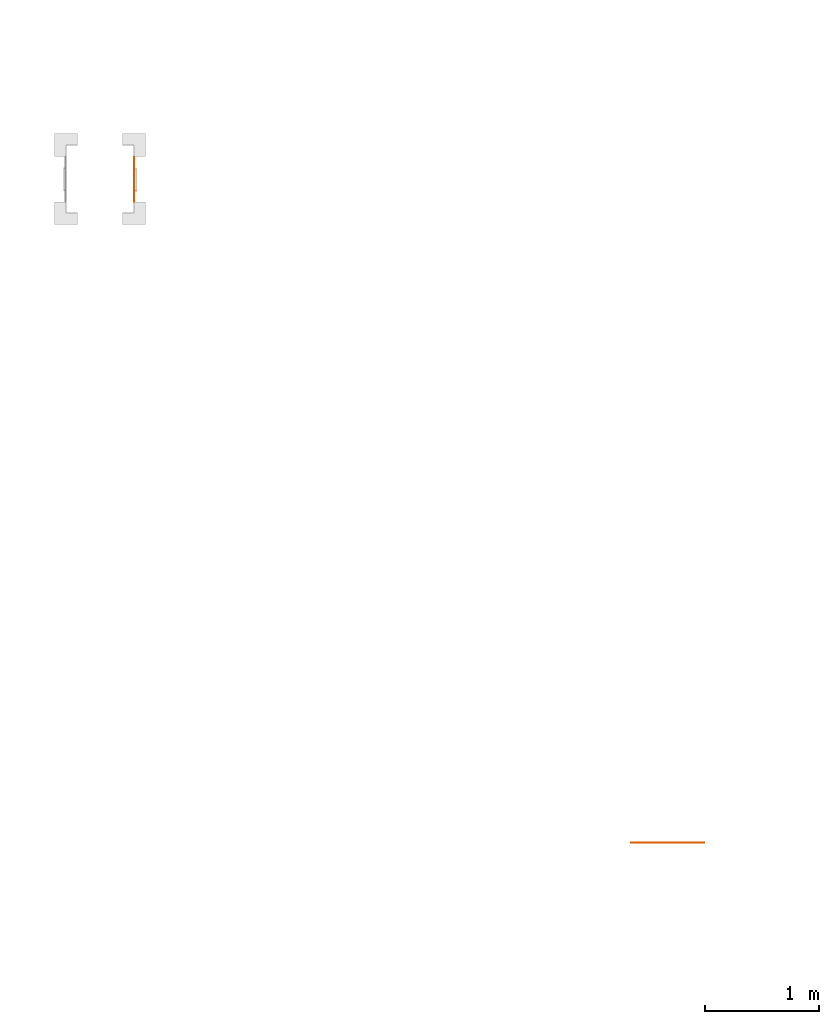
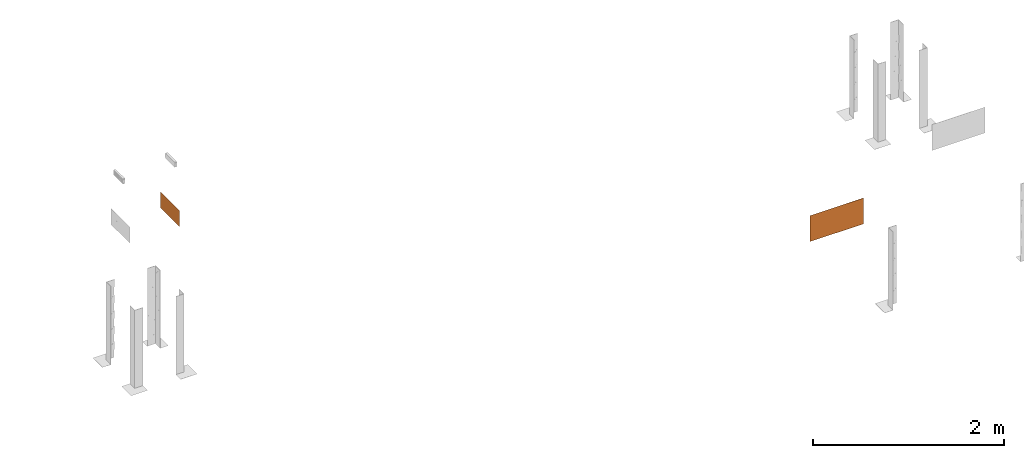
# One storey, part 46 of 119: 2 proxies.
"""IFC2X3 building model written with IfcOpenShell, lengths in metres."""

from ifc_helpers import new_model, entity, si_unit, converted_unit, derived_unit, direction, frame, frame_2d, origin, origin_2d_with_axis, place, context, subcontext, project, spatial, polyline, circle_curve, parameter, trimmed, segment, composite_curve, rectangle, outline, extrude, source, transform, mapped, material, material_list, type_object, type_shapes, element, save


model = new_model("IFC2X3")

# Units and contexts
model_context = context("Model", 3, precision=1e-05, world=origin(), true_north=direction((6.12303176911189e-17, 1.0)))
body_context = subcontext(model_context, "Body", "Model", "MODEL_VIEW")
ifc_project = project(units=[si_unit("LENGTHUNIT", "METRE"), si_unit("AREAUNIT", "SQUARE_METRE"), si_unit("VOLUMEUNIT", "CUBIC_METRE"), converted_unit("PLANEANGLEUNIT", "DEGREE", entity("IfcRatioMeasure", 0.0174532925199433), si_unit("PLANEANGLEUNIT", "RADIAN"), dimensions=[0, 0, 0, 0, 0, 0, 0]), si_unit("MASSUNIT", "GRAM", prefix="KILO"), derived_unit("MASSDENSITYUNIT", [(si_unit("MASSUNIT", "GRAM", prefix="KILO"), 1), (si_unit("LENGTHUNIT", "METRE"), -3)]), derived_unit("MOMENTOFINERTIAUNIT", [(si_unit("LENGTHUNIT", "METRE"), 4)]), si_unit("TIMEUNIT", "SECOND"), si_unit("FREQUENCYUNIT", "HERTZ"), si_unit("THERMODYNAMICTEMPERATUREUNIT", "DEGREE_CELSIUS"), derived_unit("THERMALTRANSMITTANCEUNIT", [(si_unit("MASSUNIT", "GRAM", prefix="KILO"), 1), (si_unit("THERMODYNAMICTEMPERATUREUNIT", "KELVIN"), -1), (si_unit("TIMEUNIT", "SECOND"), -3)]), derived_unit("VOLUMETRICFLOWRATEUNIT", [(si_unit("LENGTHUNIT", "METRE"), 3), (si_unit("TIMEUNIT", "SECOND"), -1)]), si_unit("ELECTRICCURRENTUNIT", "AMPERE"), si_unit("ELECTRICVOLTAGEUNIT", "VOLT"), si_unit("POWERUNIT", "WATT"), si_unit("FORCEUNIT", "NEWTON", prefix="KILO"), si_unit("ILLUMINANCEUNIT", "LUX"), si_unit("LUMINOUSFLUXUNIT", "LUMEN"), si_unit("LUMINOUSINTENSITYUNIT", "CANDELA"), derived_unit("USERDEFINED", [(si_unit("MASSUNIT", "GRAM", prefix="KILO"), -1), (si_unit("LENGTHUNIT", "METRE"), -2), (si_unit("TIMEUNIT", "SECOND"), 3), (si_unit("LUMINOUSFLUXUNIT", "LUMEN"), 1)]), derived_unit("LINEARVELOCITYUNIT", [(si_unit("LENGTHUNIT", "METRE"), 1), (si_unit("TIMEUNIT", "SECOND"), -1)]), si_unit("PRESSUREUNIT", "PASCAL"), derived_unit("USERDEFINED", [(si_unit("LENGTHUNIT", "METRE"), -2), (si_unit("MASSUNIT", "GRAM", prefix="KILO"), 1), (si_unit("TIMEUNIT", "SECOND"), -2)]), derived_unit("LINEARFORCEUNIT", [(si_unit("MASSUNIT", "GRAM", prefix="KILO"), 1), (si_unit("LENGTHUNIT", "METRE"), 1), (si_unit("TIMEUNIT", "SECOND"), -2), (si_unit("LENGTHUNIT", "METRE"), -1)]), derived_unit("PLANARFORCEUNIT", [(si_unit("MASSUNIT", "GRAM", prefix="KILO"), 1), (si_unit("LENGTHUNIT", "METRE"), 1), (si_unit("TIMEUNIT", "SECOND"), -2), (si_unit("LENGTHUNIT", "METRE"), -2)])], contexts=[model_context])

# Site, building, storey
site_placement = place(None, origin())
site = spatial("IfcSite", under=ifc_project, at=site_placement, Name="Default", CompositionType="ELEMENT")
building_placement = place(site_placement, origin())
building = spatial("IfcBuilding", under=site, at=building_placement, CompositionType="ELEMENT")
storey_placement = place(building_placement, origin())
storey = spatial("IfcBuildingStorey", under=building, at=storey_placement, Name="PAV. 01 - TÉRREO", CompositionType="ELEMENT", Elevation=0.0)

# Proxies
ifc_material_1 = material(Name="Plastico branco")
ifc_material_2 = material(Name="Plastico Verde")
ifc_material_list_1 = material_list([ifc_material_1, ifc_material_2])
building_element_proxy_type_1 = type_object("IfcBuildingElementProxyType", Name="Sinalização de orientação - S02 - Indicação do sentido da saída de emergência esquerda:Distância 12m", PredefinedType="NOTDEFINED", material=ifc_material_1)
shared_shape_1 = source(origin(), body_context, "Body", "SweptSolid", [
    extrude(outline(polyline([(-0.0269307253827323, -0.024231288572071), (-0.0259628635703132, -0.024231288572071), (-0.0248498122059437, -0.0234083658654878), (-0.0236286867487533, -0.0219305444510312), (-0.0223366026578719, -0.0199658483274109), (-0.0210106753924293, -0.0176823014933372), (-0.0159905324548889, -0.00832626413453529), (-0.0136800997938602, -0.00426313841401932), (-0.0125256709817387, -0.00238736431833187), (-0.0113513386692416, -0.000610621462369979), (-0.0101417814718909, 0.0010707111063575), (-0.00888166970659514, 0.00266026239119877), (-0.00754048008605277, 0.00417640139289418), (-0.00604105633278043, 0.00568273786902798), (-0.00429732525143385, 0.00725153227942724), (-0.00222321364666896, 0.00895504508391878), (0.000267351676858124, 0.010865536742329), (0.0161156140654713, 0.0220225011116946), (0.00541084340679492, 0.027666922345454), (0.004563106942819, 0.0280964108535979), (0.00398677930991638, 0.0283743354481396), (0.00361343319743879, 0.0285356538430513), (0.00337464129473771, 0.0286153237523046), (0.0032019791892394, 0.0286482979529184), (0.00303386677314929, 0.0286578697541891), (0.00283021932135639, 0.0286307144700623), (0.00255516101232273, 0.02854633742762), (0.00217281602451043, 0.0283842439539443), (0.00164730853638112, 0.0281239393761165), (0.000942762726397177, 0.0277449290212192), (-0.0154440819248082, 0.0179800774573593), (-0.0169906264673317, 0.0173662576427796), (-0.0184263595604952, 0.0170104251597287), (-0.0197467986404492, 0.0168906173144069), (-0.0209474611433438, 0.0169848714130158), (-0.0220238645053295, 0.017271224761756), (-0.0229715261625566, 0.0177277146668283), (-0.0237859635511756, 0.0183323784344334), (-0.0244626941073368, 0.0190632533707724), (-0.0249972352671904, 0.0198983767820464), (-0.025385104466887, 0.0208157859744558), (-0.0256218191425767, 0.0217935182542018), (-0.02570289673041, 0.0228096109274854), (-0.0256238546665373, 0.023842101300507), (-0.0253802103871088, 0.024869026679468), (-0.024967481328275, 0.0258684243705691), (-0.0243811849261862, 0.026818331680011), (-0.0236168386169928, 0.0276967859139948), (-0.022669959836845, 0.0284818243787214), (-0.012358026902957, 0.0349145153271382), (-0.0056365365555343, 0.0389186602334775), (-0.00143098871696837, 0.0410123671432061), (0.00133311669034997, 0.0417137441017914), (0.00371952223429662, 0.0415365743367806), (0.00635115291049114, 0.0408174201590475), (0.00926485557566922, 0.0396572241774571), (0.0124569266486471, 0.0381406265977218), (0.0382522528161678, 0.0245317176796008), (0.0409647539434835, 0.0230291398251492), (0.0432264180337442, 0.021505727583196), (0.0450948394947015, 0.0197223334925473), (0.0466276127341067, 0.0174398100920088), (0.0478823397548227, 0.0144190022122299), (0.0489477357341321, 0.0103891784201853), (0.0500145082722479, 0.00497609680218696), (0.0529984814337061, -0.0115815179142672), (0.0687826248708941, -0.0199385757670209), (0.101976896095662, 0.0427561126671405), (0.00232291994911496, 0.0955188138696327), (-0.0513007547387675, -0.00576130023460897), (-0.0561261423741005, -0.00320645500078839), (-0.0853051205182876, -0.0156605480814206), (-0.0628396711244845, -0.0275550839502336), (-0.0734521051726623, -0.0475990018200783), (-0.0904241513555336, -0.0529832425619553), (-0.0204118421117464, -0.0900518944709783), (-0.00292720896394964, -0.0849390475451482), (0.0122206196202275, -0.0929592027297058), (-0.00693758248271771, -0.0971859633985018), (0.00953030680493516, -0.105905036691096), (0.0262018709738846, -0.100361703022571), (0.0628213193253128, -0.0311978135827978), (0.0451218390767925, -0.0218302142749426), (0.0436304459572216, -0.0209809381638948), (0.0424868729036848, -0.020192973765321), (0.041614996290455, -0.0193663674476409), (0.0409386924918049, -0.0184011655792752), (0.0403818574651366, -0.0171974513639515), (0.0398810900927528, -0.0156792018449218), (0.0394075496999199, -0.0138354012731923), (0.0389382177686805, -0.0116659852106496), (0.0366426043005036, 0.000269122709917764), (0.0172569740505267, -0.0138624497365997), (0.0147941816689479, -0.0880984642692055), (-0.000353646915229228, -0.0800783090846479), (-0.000324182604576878, -0.0142849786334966), (-0.0124368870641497, -0.0319051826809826), (-0.0138384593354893, -0.0341119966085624), (-0.0151491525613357, -0.0360250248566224), (-0.0164165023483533, -0.0376353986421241), (-0.0176880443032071, -0.0389342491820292), (-0.0190113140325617, -0.0399127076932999), (-0.0204338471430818, -0.0405619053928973), (-0.0220031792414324, -0.0408729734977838), (-0.0237668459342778, -0.0408370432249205), (-0.025772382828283, -0.0404452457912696), (-0.0280673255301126, -0.0396887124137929), (-0.0306992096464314, -0.0385585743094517), (-0.0337155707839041, -0.0370459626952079), (-0.0714172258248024, -0.0170844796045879), (-0.0536029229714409, -0.0101094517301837), (-0.0269307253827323, -0.024231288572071)]), holes=[composite_curve([segment(trimmed(circle_curve(frame_2d((0.0517161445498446, 0.0359195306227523), x_axis=(0.883770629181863, -0.46792037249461)), 0.0134), [parameter(180.0)], [parameter(360.0)], True, "PARAMETER"), False, "CONTINUOUS"), segment(trimmed(circle_curve(frame_2d((0.0517161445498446, 0.0359195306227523), x_axis=(0.883770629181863, -0.46792037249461)), 0.0134), [parameter(2.03555499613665e-13)], [parameter(180.0)], True, "PARAMETER"), False, "CONTINUOUS")], self_intersect=False)]), frame((0.112957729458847, -0.00110000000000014, 1.90431633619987), z_axis=(0.0, 1.0, 0.0), x_axis=(-0.883770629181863, 0.0, 0.46792037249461)), (0.0, 0.0, 1.0), 0.0011),
    extrude(outline(polyline([(-0.197500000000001, -0.102500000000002), (0.197500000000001, -0.102500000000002), (0.197500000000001, 0.102500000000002), (-0.197500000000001, 0.102500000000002), (-0.197500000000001, -0.102500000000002)]), holes=[polyline([(-0.190000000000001, -0.0950000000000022), (-0.190000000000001, 0.0949999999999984), (0.189999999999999, 0.0949999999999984), (0.189999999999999, -0.0950000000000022), (-0.190000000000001, -0.0950000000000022)])]), frame((0.0, -0.0011, 1.9025), z_axis=(0.0, 1.0, 0.0), x_axis=(1.0, 0.0, 0.0)), (0.0, 0.0, 1.0), 0.0011),
    extrude(rectangle(XDim=0.38, YDim=0.001, at=origin_2d_with_axis()), frame((0.0, -0.0005, 1.8075)), (0.0, 0.0, 1.0), 0.190000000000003),
    extrude(outline(polyline([(-0.0341511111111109, -0.0575999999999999), (0.016628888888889, -0.0575999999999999), (-0.0218311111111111, -0.0191399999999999), (0.0852288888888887, -0.0191399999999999), (0.0852288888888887, 0.0191400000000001), (-0.0218311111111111, 0.0191400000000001), (0.016628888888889, 0.0576000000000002), (-0.0341511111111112, 0.0576000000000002), (-0.0917511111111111, 0.0), (-0.0341511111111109, -0.0575999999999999)])), frame((-0.0852288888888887, -0.0011, 1.9025), z_axis=(0.0, 1.0, 0.0), x_axis=(1.0, 0.0, 0.0)), (0.0, 0.0, 1.0), 0.0011),
])
type_shapes(building_element_proxy_type_1, [shared_shape_1])
proxy_1_placement = place(storey_placement, frame((28.9738466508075, 0.425057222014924, 0.0), z_axis=(0.0, 0.0, 1.0), x_axis=(0.0, 1.0, 0.0)))
element("IfcBuildingElementProxy", 1, at=proxy_1_placement, inside=storey, type_object=building_element_proxy_type_1, material=ifc_material_list_1, Name="Sinalização de orientação - S02 - Indicação do sentido da saída de emergência esquerda:Distância 12m", ObjectType="Sinalização de orientação - S02 - Indicação do sentido da saída de emergência esquerda:Distância 12m", context=body_context, shape_type="MappedRepresentation", body=[
    mapped(shared_shape_1, transform((0.0, 0.0, 0.0), scale=1.0)),
])
ifc_material_list_2 = material_list([ifc_material_1, ifc_material_2])
building_element_proxy_type_2 = type_object("IfcBuildingElementProxyType", Name="Sinalização de orientação - S12 - Saída de emergência:Distância 20m", PredefinedType="NOTDEFINED", material=ifc_material_1)
shared_shape_2 = source(origin(), body_context, "Body", "SweptSolid", [
    extrude(outline(polyline([(0.0376954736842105, -0.0454956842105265), (0.0705927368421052, -0.0454956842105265), (0.0183030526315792, 0.105552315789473), (-0.0183529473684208, 0.105552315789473), (-0.0714076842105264, -0.0454956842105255), (-0.0368472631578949, -0.0454956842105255), (-0.027200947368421, -0.0145609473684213), (0.0272175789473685, -0.0145609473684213), (0.0376954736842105, -0.0454956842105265)]), holes=[polyline([(-0.0183529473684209, 0.0115506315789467), (0.000141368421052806, 0.0715241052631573), (0.0183030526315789, 0.0115506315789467), (-0.0183529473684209, 0.0115506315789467)])]), frame((0.227960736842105, -0.0011, 3.63618684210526), z_axis=(0.0, 1.0, 0.0), x_axis=(-1.0, 0.0, 0.0)), (0.0, 0.0, 1.0), 0.0011),
    extrude(outline(polyline([(0.00169642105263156, -0.0153010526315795), (0.0223528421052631, -0.0153010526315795), (0.00329305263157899, 0.0153010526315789), (-0.0273423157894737, 0.0153010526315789), (0.00169642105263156, -0.0153010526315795)])), frame((0.0069519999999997, -0.0011, 3.77250757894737), z_axis=(0.0, 1.0, 0.0), x_axis=(-1.0, 0.0, 0.0)), (0.0, 0.0, 1.0), 0.0011),
    extrude(rectangle(XDim=0.0011, YDim=0.030968, at=origin_2d_with_axis()), frame((-0.00367557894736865, -0.00055, 3.59069115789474), z_axis=(0.0, 0.0, 1.0), x_axis=(0.0, 1.0, 0.0)), (0.0, 0.0, 1.0), 0.151048),
    extrude(outline(polyline([(0.0376247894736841, -0.0454956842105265), (0.0704887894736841, -0.0454956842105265), (0.0182323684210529, 0.105552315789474), (-0.0184568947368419, 0.105552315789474), (-0.0707798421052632, -0.0454956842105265), (-0.0369512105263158, -0.0454956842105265), (-0.0273048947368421, -0.0145609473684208), (0.0271468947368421, -0.0145609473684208), (0.0376247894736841, -0.0454956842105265)]), holes=[polyline([(-0.018456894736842, 0.0115506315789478), (3.74210526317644e-05, 0.0715241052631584), (0.0182323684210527, 0.0115506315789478), (-0.018456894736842, 0.0115506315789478)])]), frame((-0.101049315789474, -0.0011, 3.63618684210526), z_axis=(0.0, 1.0, 0.0), x_axis=(-1.0, 0.0, 0.0)), (0.0, 0.0, 1.0), 0.0011),
    extrude(outline(polyline([(-0.0987312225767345, -0.0692916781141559), (-0.0390903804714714, -0.0692916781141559), (-0.0259090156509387, -0.0690015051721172), (-0.015711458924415, -0.0679295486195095), (-0.00762154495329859, -0.0657736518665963), (-0.000763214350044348, -0.062231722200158), (0.00552600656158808, -0.0571304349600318), (0.0112471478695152, -0.0506952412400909), (0.0162735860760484, -0.0432285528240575), (0.0204786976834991, -0.0350327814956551), (0.0237358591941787, -0.0264103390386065), (0.0259649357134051, -0.0176406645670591), (0.0272763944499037, -0.00890900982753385), (0.0278295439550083, -0.000376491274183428), (0.0277836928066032, 0.00779577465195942), (0.0272981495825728, 0.0154466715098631), (0.0265127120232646, 0.0224446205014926), (0.0253600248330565, 0.0289716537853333), (0.0236478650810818, 0.0353988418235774), (0.0211822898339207, 0.0420998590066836), (0.017769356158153, 0.0494483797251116), (0.0131642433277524, 0.0577443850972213), (0.00648808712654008, 0.0663694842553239), (-0.00356821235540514, 0.0740821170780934), (-0.0183219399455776, 0.0796288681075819), (-0.0390903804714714, 0.0817563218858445), (-0.0987312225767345, 0.0817563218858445), (-0.0987312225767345, -0.0692916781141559)]), holes=[polyline([(-0.0677299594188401, 0.0556447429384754), (-0.0390903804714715, 0.0556447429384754), (-0.0307359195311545, 0.0546713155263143), (-0.0238840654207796, 0.0520574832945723), (-0.0183755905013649, 0.0482629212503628), (-0.0140512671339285, 0.0437473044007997), (-0.0107521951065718, 0.0389334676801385), (-0.00832187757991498, 0.033973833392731), (-0.0066048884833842, 0.0289003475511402), (-0.00544580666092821, 0.0237444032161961), (-0.00468921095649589, 0.0185373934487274), (-0.00418569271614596, 0.0133093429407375), (-0.00388873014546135, 0.00806686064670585), (-0.00383818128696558, 0.00279689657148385), (-0.00407658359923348, -0.00251420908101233), (-0.00464647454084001, -0.00788011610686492), (-0.00559039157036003, -0.0133144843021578), (-0.00695529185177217, -0.0188075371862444), (-0.00881691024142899, -0.0241968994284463), (-0.0112625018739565, -0.0292591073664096), (-0.0143793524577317, -0.0337705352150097), (-0.0182547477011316, -0.037507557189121), (-0.0229507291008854, -0.0402659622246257), (-0.0282499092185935, -0.0420564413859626), (-0.0337610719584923, -0.0430233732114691), (-0.0390903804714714, -0.0433131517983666), (-0.0677299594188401, -0.0433131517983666), (-0.0677299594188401, 0.0556447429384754)])]), frame((0.133025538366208, -0.0011, 3.67244747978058), z_axis=(0.0, 1.0, 0.0), x_axis=(1.0, 0.0, 0.0)), (0.0, 0.0, 1.0), 0.0011),
    extrude(outline(polyline([(-0.0574831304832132, 0.0312104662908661), (-0.0278789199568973, 0.0312104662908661), (-0.0266149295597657, 0.036124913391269), (-0.0251060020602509, 0.040204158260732), (-0.0233574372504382, 0.043538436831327), (-0.0213745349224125, 0.0462179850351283), (-0.0191625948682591, 0.048333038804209), (-0.0167269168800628, 0.0499738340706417), (-0.0140728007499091, 0.0512306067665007), (-0.0112055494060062, 0.0521935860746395), (-0.00813940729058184, 0.0529337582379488), (-0.00491714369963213, 0.0534607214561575), (-0.00158720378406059, 0.0537718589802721), (0.00180196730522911, 0.0538645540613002), (0.00520192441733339, 0.0537361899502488), (0.00856422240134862, 0.0533841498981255), (0.0118404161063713, 0.0528058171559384), (0.0149820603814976, 0.0519985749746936), (0.0179380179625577, 0.0509495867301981), (0.0206451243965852, 0.0496003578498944), (0.0230368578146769, 0.0478796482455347), (0.0250466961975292, 0.0457162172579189), (0.0266081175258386, 0.043038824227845), (0.027654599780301, 0.039776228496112), (0.0281196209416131, 0.0358571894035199), (0.027936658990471, 0.0312104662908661), (0.0270808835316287, 0.0286066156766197), (0.0255323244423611, 0.0263499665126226), (0.0233445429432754, 0.0243963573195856), (0.020571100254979, 0.0227016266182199), (0.0172655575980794, 0.0212216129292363), (0.0134814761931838, 0.0199121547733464), (0.00927241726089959, 0.0187290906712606), (0.00469194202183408, 0.0176282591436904), (-0.0162655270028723, 0.0131619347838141), (-0.021854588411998, 0.0117970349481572), (-0.0274211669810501, 0.0102287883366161), (-0.0328768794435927, 0.00840313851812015), (-0.0381333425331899, 0.00626602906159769), (-0.0431021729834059, 0.00376340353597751), (-0.047694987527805, 0.000841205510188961), (-0.051823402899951, -0.00255462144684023), (-0.0553990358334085, -0.00647813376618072), (-0.0583335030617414, -0.0109833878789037), (-0.0605384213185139, -0.0161244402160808), (-0.0619254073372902, -0.0219553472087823), (-0.0624060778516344, -0.0285301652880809), (-0.0614580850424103, -0.0401353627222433), (-0.0587034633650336, -0.050021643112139), (-0.0542724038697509, -0.0582833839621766), (-0.048295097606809, -0.0650149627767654), (-0.0409017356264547, -0.0703107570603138), (-0.0322225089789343, -0.0742651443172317), (-0.0223876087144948, -0.0769725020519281), (-0.0115272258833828, -0.0785272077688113), (0.00022844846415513, -0.0790236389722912), (0.0105685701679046, -0.0784476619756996), (0.0204533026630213, -0.0766900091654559), (0.0296795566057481, -0.0737177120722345), (0.0380442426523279, -0.0694978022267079), (0.0453442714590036, -0.0639973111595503), (0.0513765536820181, -0.0571832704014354), (0.0559379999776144, -0.0490227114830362), (0.0588255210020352, -0.0394826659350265), (0.0598360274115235, -0.0285301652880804), (0.0296663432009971, -0.0285301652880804), (0.0292112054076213, -0.0336041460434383), (0.0279224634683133, -0.0379372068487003), (0.0259151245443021, -0.0415888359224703), (0.023304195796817, -0.0446185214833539), (0.0202046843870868, -0.047085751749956), (0.0167315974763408, -0.0490500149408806), (0.0129999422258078, -0.0505707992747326), (0.00912472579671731, -0.0517075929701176), (0.00521918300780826, -0.0525188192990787), (0.00135318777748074, -0.0530368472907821), (-0.00244824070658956, -0.0532670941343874), (-0.00616215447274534, -0.053213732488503), (-0.00976560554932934, -0.0528809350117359), (-0.0132356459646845, -0.0522728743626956), (-0.0165493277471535, -0.0513937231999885), (-0.0196837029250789, -0.0502476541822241), (-0.0226158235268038, -0.0488388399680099), (-0.0253148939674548, -0.0471644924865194), (-0.0277033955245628, -0.0451803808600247), (-0.029686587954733, -0.0428269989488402), (-0.0311697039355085, -0.0400448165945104), (-0.0320579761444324, -0.036774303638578), (-0.0322566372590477, -0.0329559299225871), (-0.0316709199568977, -0.0285301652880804), (-0.0303724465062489, -0.0255638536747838), (-0.0278577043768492, -0.0229636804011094), (-0.0243560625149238, -0.02069431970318), (-0.0200968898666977, -0.0187204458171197), (-0.0153095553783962, -0.0170067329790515), (-0.0102234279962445, -0.0155178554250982), (-0.00506787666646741, -0.014218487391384), (0.0142120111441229, -0.010006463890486), (0.0187157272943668, -0.00893032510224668), (0.0231174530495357, -0.0077357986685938), (0.0274294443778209, -0.00636831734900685), (0.031663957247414, -0.00477331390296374), (0.0358332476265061, -0.00289622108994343), (0.0399331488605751, -0.000678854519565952), (0.0438729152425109, 0.00195603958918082), (0.047533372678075, 0.00509197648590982), (0.0507953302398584, 0.00881247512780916), (0.0535395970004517, 0.0132010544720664), (0.0556469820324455, 0.0183412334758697), (0.0569982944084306, 0.024316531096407), (0.0574743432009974, 0.0312104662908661), (0.0568973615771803, 0.0401466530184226), (0.0551054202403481, 0.048505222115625), (0.0519995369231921, 0.0561595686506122), (0.0474807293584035, 0.0629830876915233), (0.0414500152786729, 0.0688491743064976), (0.0338084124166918, 0.0736312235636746), (0.024456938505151, 0.0772026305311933), (0.013296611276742, 0.0794367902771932), (0.0002284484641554, 0.0802070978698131), (-0.0142842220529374, 0.0789872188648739), (-0.0269292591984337, 0.075473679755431), (-0.0375736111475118, 0.0698867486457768), (-0.0460842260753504, 0.0624466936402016), (-0.0523280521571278, 0.0533737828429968), (-0.0561720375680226, 0.0428882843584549), (-0.0574831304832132, 0.0312104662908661)])), frame((-0.239532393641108, -0.0011, 3.66565669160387), z_axis=(0.0, 1.0, 0.0), x_axis=(-1.0, 0.0, 0.0)), (0.0, 0.0, 1.0), 0.0011),
    extrude(rectangle(XDim=0.001, YDim=0.632, at=origin_2d_with_axis()), frame((0.0, -0.0005, 3.5075), z_axis=(0.0, 0.0, 1.0), x_axis=(0.0, 1.0, 0.0)), (0.0, 0.0, 1.0), 0.316000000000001),
    extrude(outline(polyline([(-0.165500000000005, -0.323499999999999), (0.165500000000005, -0.323499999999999), (0.165500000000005, 0.323499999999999), (-0.165500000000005, 0.323499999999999), (-0.165500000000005, -0.323499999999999)]), holes=[polyline([(-0.157999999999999, -0.315999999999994), (-0.157999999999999, 0.316000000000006), (0.158000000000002, 0.316000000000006), (0.158000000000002, -0.315999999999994), (-0.157999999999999, -0.315999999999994)])]), frame((0.0, -0.001, 3.66550000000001), z_axis=(0.0, 1.0, 0.0), x_axis=(0.0, 0.0, -1.0)), (0.0, 0.0, 1.0), 0.001),
])
type_shapes(building_element_proxy_type_2, [shared_shape_2])
proxy_2_placement = place(storey_placement, frame((33.6739488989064, -5.41661806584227, 0.0), z_axis=(0.0, 0.0, 1.0), x_axis=(-1.0, 0.0, 0.0)))
element("IfcBuildingElementProxy", 2, at=proxy_2_placement, inside=storey, type_object=building_element_proxy_type_2, material=ifc_material_list_2, Name="Sinalização de orientação - S12 - Saída de emergência:Distância 20m", ObjectType="Sinalização de orientação - S12 - Saída de emergência:Distância 20m", context=body_context, shape_type="MappedRepresentation", body=[
    mapped(shared_shape_2, transform((0.0, 0.0, 0.0), scale=1.0)),
])

save(model, "model.ifc")
